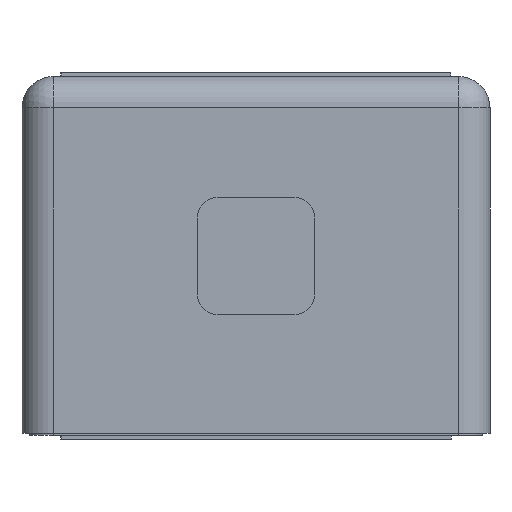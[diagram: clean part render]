
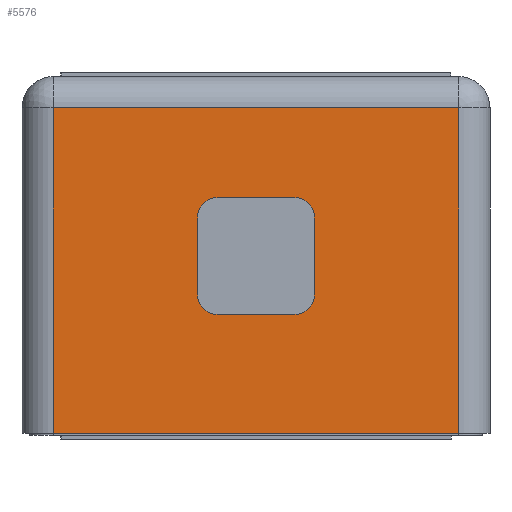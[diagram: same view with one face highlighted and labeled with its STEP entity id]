
A CAD part, left-side view. The second image highlights one B-rep face of the part: STEP entity #5576.
In plain terms, the highlighted planar face has unit normal (-1, 0, 0).
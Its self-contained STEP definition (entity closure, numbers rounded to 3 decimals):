
#88=FACE_BOUND('',#762,.T.);
#190=PLANE('',#6145);
#442=FACE_OUTER_BOUND('',#761,.T.);
#761=EDGE_LOOP('',(#4409,#4410,#4411,#4412));
#762=EDGE_LOOP('',(#4413,#4414,#4415,#4416,#4417,#4418,#4419,#4420));
#977=LINE('',#8194,#1579);
#980=LINE('',#8208,#1582);
#984=LINE('',#8214,#1586);
#1105=LINE('',#8581,#1707);
#1139=LINE('',#8667,#1741);
#1142=LINE('',#8672,#1744);
#1148=LINE('',#8691,#1750);
#1151=LINE('',#8696,#1753);
#1579=VECTOR('',#6534,10.);
#1582=VECTOR('',#6549,10.);
#1586=VECTOR('',#6557,10.);
#1707=VECTOR('',#6874,10.);
#1741=VECTOR('',#6962,10.);
#1744=VECTOR('',#6967,10.);
#1750=VECTOR('',#6989,10.);
#1753=VECTOR('',#6994,10.);
#2255=CIRCLE('',#6072,0.5);
#2257=CIRCLE('',#6079,0.5);
#2258=CIRCLE('',#6081,0.5);
#2260=CIRCLE('',#6088,0.5);
#2399=VERTEX_POINT('',#8187);
#2401=VERTEX_POINT('',#8192);
#2402=VERTEX_POINT('',#8197);
#2405=VERTEX_POINT('',#8204);
#2575=VERTEX_POINT('',#8654);
#2576=VERTEX_POINT('',#8656);
#2579=VERTEX_POINT('',#8666);
#2580=VERTEX_POINT('',#8670);
#2582=VERTEX_POINT('',#8678);
#2583=VERTEX_POINT('',#8682);
#2585=VERTEX_POINT('',#8690);
#2586=VERTEX_POINT('',#8694);
#2937=EDGE_CURVE('',#2401,#2399,#977,.T.);
#2944=EDGE_CURVE('',#2402,#2405,#980,.T.);
#2948=EDGE_CURVE('',#2399,#2402,#984,.T.);
#3133=EDGE_CURVE('',#2405,#2401,#1105,.T.);
#3172=EDGE_CURVE('',#2576,#2575,#2255,.T.);
#3177=EDGE_CURVE('',#2579,#2576,#1139,.T.);
#3180=EDGE_CURVE('',#2575,#2580,#1142,.T.);
#3183=EDGE_CURVE('',#2582,#2579,#2257,.T.);
#3186=EDGE_CURVE('',#2580,#2583,#2258,.T.);
#3189=EDGE_CURVE('',#2585,#2582,#1148,.T.);
#3192=EDGE_CURVE('',#2583,#2586,#1151,.T.);
#3195=EDGE_CURVE('',#2586,#2585,#2260,.T.);
#4409=ORIENTED_EDGE('',*,*,#2937,.F.);
#4410=ORIENTED_EDGE('',*,*,#3133,.F.);
#4411=ORIENTED_EDGE('',*,*,#2944,.F.);
#4412=ORIENTED_EDGE('',*,*,#2948,.F.);
#4413=ORIENTED_EDGE('',*,*,#3195,.T.);
#4414=ORIENTED_EDGE('',*,*,#3189,.T.);
#4415=ORIENTED_EDGE('',*,*,#3183,.T.);
#4416=ORIENTED_EDGE('',*,*,#3177,.T.);
#4417=ORIENTED_EDGE('',*,*,#3172,.T.);
#4418=ORIENTED_EDGE('',*,*,#3180,.T.);
#4419=ORIENTED_EDGE('',*,*,#3186,.T.);
#4420=ORIENTED_EDGE('',*,*,#3192,.T.);
#5576=ADVANCED_FACE('',(#442,#88),#190,.T.);
#6072=AXIS2_PLACEMENT_3D('',#8657,#6951,#6952);
#6079=AXIS2_PLACEMENT_3D('',#8679,#6974,#6975);
#6081=AXIS2_PLACEMENT_3D('',#8684,#6980,#6981);
#6088=AXIS2_PLACEMENT_3D('',#8702,#7001,#7002);
#6145=AXIS2_PLACEMENT_3D('',#8819,#7168,#7169);
#6534=DIRECTION('',(0.,0.,-1.));
#6549=DIRECTION('',(0.,0.,1.));
#6557=DIRECTION('',(0.,1.,0.));
#6874=DIRECTION('',(0.,-1.,0.));
#6951=DIRECTION('center_axis',(1.,0.,0.));
#6952=DIRECTION('ref_axis',(0.,0.,-1.));
#6962=DIRECTION('',(0.,-1.,0.));
#6967=DIRECTION('',(0.,0.,-1.));
#6974=DIRECTION('center_axis',(1.,0.,0.));
#6975=DIRECTION('ref_axis',(0.,-1.,0.));
#6980=DIRECTION('center_axis',(1.,0.,0.));
#6981=DIRECTION('ref_axis',(0.,1.,0.));
#6989=DIRECTION('',(0.,0.,1.));
#6994=DIRECTION('',(0.,1.,0.));
#7001=DIRECTION('center_axis',(1.,0.,0.));
#7002=DIRECTION('ref_axis',(0.,0.,1.));
#7168=DIRECTION('center_axis',(-1.,0.,0.));
#7169=DIRECTION('ref_axis',(0.,-1.,0.));
#8187=CARTESIAN_POINT('',(-13.5,-5.2,-3.775));
#8192=CARTESIAN_POINT('',(-13.5,-5.2,4.575));
#8194=CARTESIAN_POINT('',(-13.5,-5.2,0.));
#8197=CARTESIAN_POINT('',(-13.5,5.2,-3.775));
#8204=CARTESIAN_POINT('',(-13.5,5.2,4.575));
#8208=CARTESIAN_POINT('',(-13.5,5.2,0.));
#8214=CARTESIAN_POINT('',(-13.5,3.,-3.775));
#8581=CARTESIAN_POINT('',(-13.5,-6.,4.575));
#8654=CARTESIAN_POINT('',(-13.5,-1.5,1.025));
#8656=CARTESIAN_POINT('',(-13.5,-1.,1.525));
#8657=CARTESIAN_POINT('Origin',(-13.5,-1.,1.025));
#8666=CARTESIAN_POINT('',(-13.5,1.,1.525));
#8667=CARTESIAN_POINT('',(-13.5,2.5,1.525));
#8670=CARTESIAN_POINT('',(-13.5,-1.5,-0.975));
#8672=CARTESIAN_POINT('',(-13.5,-1.5,-0.487));
#8678=CARTESIAN_POINT('',(-13.5,1.5,1.025));
#8679=CARTESIAN_POINT('Origin',(-13.5,1.,1.025));
#8682=CARTESIAN_POINT('',(-13.5,-1.,-1.475));
#8684=CARTESIAN_POINT('Origin',(-13.5,-1.,-0.975));
#8690=CARTESIAN_POINT('',(-13.5,1.5,-0.975));
#8691=CARTESIAN_POINT('',(-13.5,1.5,0.513));
#8694=CARTESIAN_POINT('',(-13.5,1.,-1.475));
#8696=CARTESIAN_POINT('',(-13.5,3.5,-1.475));
#8702=CARTESIAN_POINT('Origin',(-13.5,1.,-0.975));
#8819=CARTESIAN_POINT('Origin',(-13.5,6.,0.));
